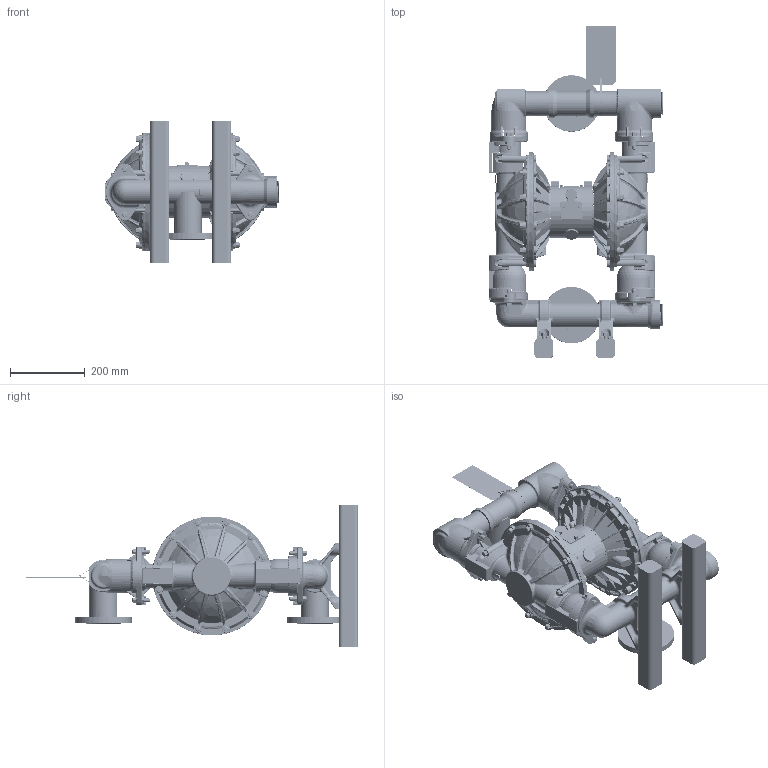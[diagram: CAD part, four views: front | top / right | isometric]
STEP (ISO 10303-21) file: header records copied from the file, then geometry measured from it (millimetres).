
FILE_DESCRIPTION((''),'2;1');
FILE_NAME('25C658-EN-B_PRT','2019-12-31T19:47:56',('qusrh3'),(''),'CREO PARAMETRIC BY PTC INC, 2019030','CREO PARAMETRIC BY PTC INC, 2019030','');
FILE_SCHEMA(('CONFIG_CONTROL_DESIGN'));
Products named in the file (1): 25C658-EN-B_PRT
Bounding box: 466.78 x 886.08 x 381 mm (x, y, z)
Surface area: 1772709.5 mm2 (no closed solid volume)
Topology: 0 solids, 178 shells, 6544 faces, 17345 edges, 10580 vertices
Faces by surface type: bspline 2342, cylinder 1370, plane 1173, torus 1018, cone 407, sphere 234
Entity records: 311104 total; most frequent: CARTESIAN_POINT 172259, ORIENTED_EDGE 30441, DIRECTION 24843, EDGE_CURVE 17344, VERTEX_POINT 10580, AXIS2_PLACEMENT_3D 10518, B_SPLINE_CURVE_WITH_KNOTS 7221, EDGE_LOOP 6544
